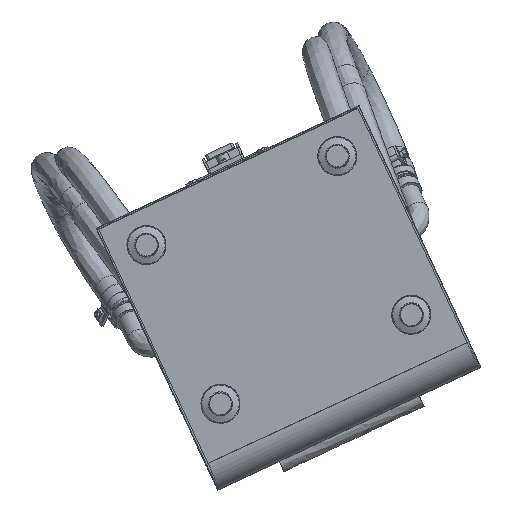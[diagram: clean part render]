
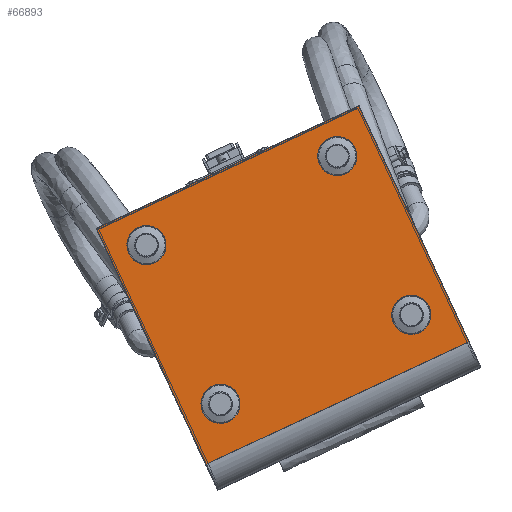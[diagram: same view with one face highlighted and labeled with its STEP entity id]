
A CAD part, top view. The second image highlights one B-rep face of the part: STEP entity #66893.
In plain terms, the highlighted free-form (B-spline) face has degree [1, 1] with [2, 2] control points.
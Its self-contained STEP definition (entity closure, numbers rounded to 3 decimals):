
#6401=CARTESIAN_POINT('V702',(28.938,103.737,
   158.182));
#6402=VERTEX_POINT('V702',#6401);
#6418=CARTESIAN_POINT('E996',(28.938,103.737,
   158.182));
#6419=CARTESIAN_POINT('E996',(16.049,131.368,
   158.182));
#6420=CARTESIAN_POINT('E996',(46.422,128.715,
   158.182));
#6421=CARTESIAN_POINT('E996',(76.795,126.061,
   158.182));
#6422=CARTESIAN_POINT('E996',(59.311,101.084,
   158.182));
#6423=CARTESIAN_POINT('E996',(41.827,76.107,
   158.182));
#6424=CARTESIAN_POINT('E996',(28.938,103.737,
   158.182));
#6432=(BOUNDED_CURVE()B_SPLINE_CURVE(2,(#6418,#6419,#6420,#6421,
   #6422,#6423,#6424),.CIRCULAR_ARC.,.T.,.U.)
   B_SPLINE_CURVE_WITH_KNOTS((3,2,2,3),(2.0,184.107,
   366.214,548.322),.UNSPECIFIED.)CURVE()
   GEOMETRIC_REPRESENTATION_ITEM()RATIONAL_B_SPLINE_CURVE((1.0,
   0.5,1.0,0.5,1.0,0.5,1.0)
   )REPRESENTATION_ITEM('E996'));
#6433=EDGE_CURVE('E996',#6402,#6402,#6432,.T.);
#6639=CARTESIAN_POINT('V703',(-143.249,
   23.416,158.182));
#6640=VERTEX_POINT('V703',#6639);
#6656=CARTESIAN_POINT('E997',(-143.249,
   23.416,158.182));
#6657=CARTESIAN_POINT('E997',(-156.138,
   51.047,158.182));
#6658=CARTESIAN_POINT('E997',(-125.765,
   48.393,158.182));
#6659=CARTESIAN_POINT('E997',(-95.392,45.74,
   158.182));
#6660=CARTESIAN_POINT('E997',(-112.876,
   20.763,158.182));
#6661=CARTESIAN_POINT('E997',(-130.36,
   -4.214,158.182));
#6662=CARTESIAN_POINT('E997',(-143.249,
   23.416,158.182));
#6670=(BOUNDED_CURVE()B_SPLINE_CURVE(2,(#6656,#6657,#6658,#6659,
   #6660,#6661,#6662),.CIRCULAR_ARC.,.T.,.U.)
   B_SPLINE_CURVE_WITH_KNOTS((3,2,2,3),(2.0,184.107,
   366.214,548.322),.UNSPECIFIED.)CURVE()
   GEOMETRIC_REPRESENTATION_ITEM()RATIONAL_B_SPLINE_CURVE((1.0,
   0.5,1.0,0.5,1.0,0.5,1.0)
   )REPRESENTATION_ITEM('E997'));
#6671=EDGE_CURVE('E997',#6640,#6640,#6670,.T.);
#6877=CARTESIAN_POINT('V704',(-76.456,
   -119.771,158.182));
#6878=VERTEX_POINT('V704',#6877);
#6894=CARTESIAN_POINT('E998',(-76.456,
   -119.771,158.182));
#6895=CARTESIAN_POINT('E998',(-89.345,
   -92.141,158.182));
#6896=CARTESIAN_POINT('E998',(-58.972,
   -94.794,158.182));
#6897=CARTESIAN_POINT('E998',(-28.599,
   -97.447,158.182));
#6898=CARTESIAN_POINT('E998',(-46.083,
   -122.424,158.182));
#6899=CARTESIAN_POINT('E998',(-63.567,
   -147.402,158.182));
#6900=CARTESIAN_POINT('E998',(-76.456,
   -119.771,158.182));
#6908=(BOUNDED_CURVE()B_SPLINE_CURVE(2,(#6894,#6895,#6896,#6897,
   #6898,#6899,#6900),.CIRCULAR_ARC.,.T.,.U.)
   B_SPLINE_CURVE_WITH_KNOTS((3,2,2,3),(2.0,184.107,
   366.214,548.322),.UNSPECIFIED.)CURVE()
   GEOMETRIC_REPRESENTATION_ITEM()RATIONAL_B_SPLINE_CURVE((1.0,
   0.5,1.0,0.5,1.0,0.5,1.0)
   )REPRESENTATION_ITEM('E998'));
#6909=EDGE_CURVE('E998',#6878,#6878,#6908,.T.);
#7115=CARTESIAN_POINT('V705',(95.732,-39.45,
   158.182));
#7116=VERTEX_POINT('V705',#7115);
#7132=CARTESIAN_POINT('E999',(95.732,-39.45,
   158.182));
#7133=CARTESIAN_POINT('E999',(82.843,-11.82,
   158.182));
#7134=CARTESIAN_POINT('E999',(113.216,
   -14.473,158.182));
#7135=CARTESIAN_POINT('E999',(143.589,
   -17.126,158.182));
#7136=CARTESIAN_POINT('E999',(126.105,
   -42.103,158.182));
#7137=CARTESIAN_POINT('E999',(108.62,
   -67.081,158.182));
#7138=CARTESIAN_POINT('E999',(95.732,-39.45,
   158.182));
#7146=(BOUNDED_CURVE()B_SPLINE_CURVE(2,(#7132,#7133,#7134,#7135,
   #7136,#7137,#7138),.CIRCULAR_ARC.,.T.,.U.)
   B_SPLINE_CURVE_WITH_KNOTS((3,2,2,3),(2.0,184.107,
   366.214,548.322),.UNSPECIFIED.)CURVE()
   GEOMETRIC_REPRESENTATION_ITEM()RATIONAL_B_SPLINE_CURVE((1.0,
   0.5,1.0,0.5,1.0,0.5,1.0)
   )REPRESENTATION_ITEM('E999'));
#7147=EDGE_CURVE('E999',#7116,#7116,#7146,.T.);
#65827=CARTESIAN_POINT('V700',(-172.302,
   45.726,158.182));
#65828=VERTEX_POINT('V700',#65827);
#65874=CARTESIAN_POINT('V701',(-73.169,
   -166.789,158.182));
#65875=VERTEX_POINT('V701',#65874);
#65889=CARTESIAN_POINT('E994',(-172.302,
   45.726,158.182));
#65890=CARTESIAN_POINT('E994',(-73.169,
   -166.789,158.182));
#65891=B_SPLINE_CURVE_WITH_KNOTS('E994',1,(#65889,#65890),
   .POLYLINE_FORM.,.F.,.U.,(2,2),(2.0,300.575),
   .UNSPECIFIED.);
#65892=EDGE_CURVE('E994',#65828,#65875,#65891,.T.);
#66835=CARTESIAN_POINT('V699',(64.23,
   156.062,158.182));
#66836=VERTEX_POINT('V699',#66835);
#66852=CARTESIAN_POINT('E993',(64.23,
   156.062,158.182));
#66853=CARTESIAN_POINT('E993',(-172.302,
   45.726,158.182));
#66854=B_SPLINE_CURVE_WITH_KNOTS('E993',1,(#66852,#66853),
   .POLYLINE_FORM.,.F.,.U.,(2,2),(2.637,
   334.952),.UNSPECIFIED.);
#66855=EDGE_CURVE('E993',#66836,#65828,#66854,.T.);
#66860=CARTESIAN_POINT('F313',(163.991,
   -56.381,158.182));
#66861=CARTESIAN_POINT('F313',(64.478,
   156.95,158.182));
#66862=CARTESIAN_POINT('F313',(-73.718,
   -167.267,158.182));
#66863=CARTESIAN_POINT('F313',(-173.232,
   46.065,158.182));
#66864=B_SPLINE_SURFACE_WITH_KNOTS('F313',1,1,((#66860,#66862),(
   #66861,#66863)),.PLANE_SURF.,.F.,.F.,.U.,(2,2),(2,2),(0.0,1.0),
   (0.0,1.114),.UNSPECIFIED.);
#66865=CARTESIAN_POINT('V698',(163.363,
   -56.454,158.182));
#66866=VERTEX_POINT('V698',#66865);
#66867=CARTESIAN_POINT('E992',(163.363,
   -56.454,158.182));
#66868=CARTESIAN_POINT('E992',(64.23,
   156.062,158.182));
#66869=B_SPLINE_CURVE_WITH_KNOTS('E992',1,(#66867,#66868),
   .POLYLINE_FORM.,.F.,.U.,(2,2),(2.0,300.575),
   .UNSPECIFIED.);
#66870=EDGE_CURVE('E992',#66866,#66836,#66869,.T.);
#66871=ORIENTED_EDGE('E992',*,*,#66870,.T.);
#66872=ORIENTED_EDGE('F335',*,*,#66855,.T.);
#66873=ORIENTED_EDGE('F352',*,*,#65892,.T.);
#66874=CARTESIAN_POINT('E995',(163.363,
   -56.454,158.182));
#66875=CARTESIAN_POINT('E995',(-73.169,
   -166.789,158.182));
#66876=B_SPLINE_CURVE_WITH_KNOTS('E995',1,(#66874,#66875),
   .POLYLINE_FORM.,.F.,.U.,(2,2),(0.002,
   0.998),.UNSPECIFIED.);
#66877=EDGE_CURVE('E995',#66866,#65875,#66876,.T.);
#66878=ORIENTED_EDGE('E995',*,*,#66877,.F.);
#66879=EDGE_LOOP('F313',(#66871,#66872,#66873,#66878));
#66880=FACE_OUTER_BOUND('F313',#66879,.T.);
#66881=ORIENTED_EDGE('F417',*,*,#7147,.T.);
#66882=EDGE_LOOP('F313',(#66881));
#66883=FACE_BOUND('F313',#66882,.T.);
#66884=ORIENTED_EDGE('F416',*,*,#6909,.T.);
#66885=EDGE_LOOP('F313',(#66884));
#66886=FACE_BOUND('F313',#66885,.T.);
#66887=ORIENTED_EDGE('F415',*,*,#6671,.T.);
#66888=EDGE_LOOP('F313',(#66887));
#66889=FACE_BOUND('F313',#66888,.T.);
#66890=ORIENTED_EDGE('F414',*,*,#6433,.T.);
#66891=EDGE_LOOP('F313',(#66890));
#66892=FACE_BOUND('F313',#66891,.T.);
#66893=ADVANCED_FACE('F313',(#66880,#66883,#66886,#66889,#66892),
   #66864,.T.);
